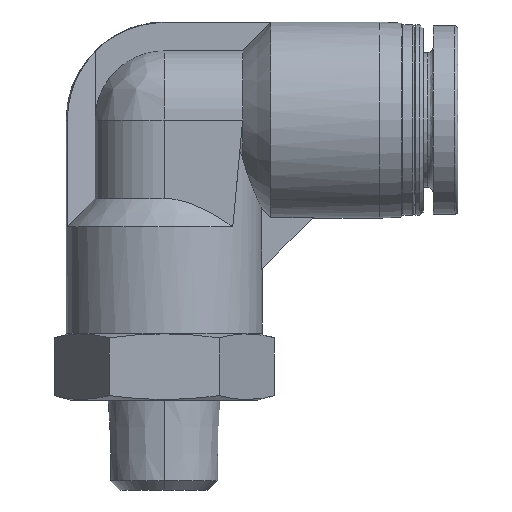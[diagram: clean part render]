
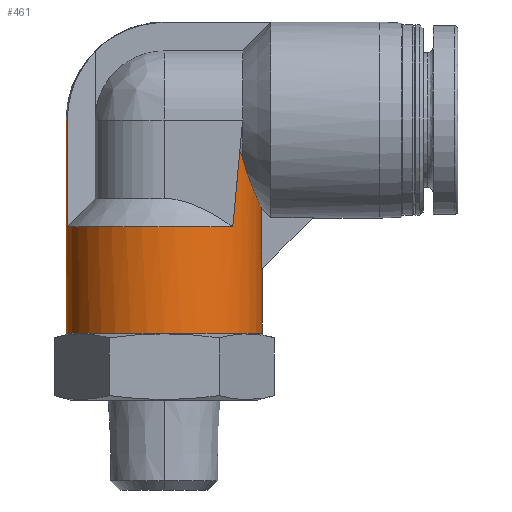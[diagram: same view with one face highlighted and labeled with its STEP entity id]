
A CAD part, front view. The second image highlights one B-rep face of the part: STEP entity #461.
In plain terms, the highlighted cylindrical face has radius 8.75 mm (diameter 17.5 mm), a partial arc.
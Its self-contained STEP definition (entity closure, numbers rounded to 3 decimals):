
#8 = DIRECTION ( 'NONE',  ( 0., 0., -1. ) ) ;
#12 = CARTESIAN_POINT ( 'NONE',  ( 6.74, -5.58, 30.184 ) ) ;
#39 = CARTESIAN_POINT ( 'NONE',  ( 8.63, -1.545, 25.253 ) ) ;
#71 = CARTESIAN_POINT ( 'NONE',  ( 0., 0., 14. ) ) ;
#118 = DIRECTION ( 'NONE',  ( 0., 0., 1. ) ) ;
#121 = CARTESIAN_POINT ( 'NONE',  ( 6.823, -5.479, 29.985 ) ) ;
#124 = EDGE_CURVE ( 'NONE', #783, #1930, #2068, .T. ) ;
#128 = EDGE_CURVE ( 'NONE', #1373, #1025, #2622, .T. ) ;
#177 = ORIENTED_EDGE ( 'NONE', *, *, #2468, .T. ) ;
#244 = CARTESIAN_POINT ( 'NONE',  ( 8.75, 0., 19.75 ) ) ;
#284 = AXIS2_PLACEMENT_3D ( 'NONE', #881, #8, #867 ) ;
#290 = CARTESIAN_POINT ( 'NONE',  ( 8.693, -1., 25.153 ) ) ;
#369 = VERTEX_POINT ( 'NONE', #732 ) ;
#428 = CARTESIAN_POINT ( 'NONE',  ( 7.602, -4.337, 27.69 ) ) ;
#457 = CARTESIAN_POINT ( 'NONE',  ( 8.095, -3.343, 26.44 ) ) ;
#458 = EDGE_LOOP ( 'NONE', ( #623, #2169, #177, #2532, #1084, #1153, #1214, #2212, #1901, #2386, #2434 ) ) ;
#461 = ADVANCED_FACE ( '39', ( #2511 ), #1176, .T. ) ;
#473 = CARTESIAN_POINT ( 'NONE',  ( 8.693, -1., 25.121 ) ) ;
#534 = CARTESIAN_POINT ( 'NONE',  ( 8.75, 0., 19.75 ) ) ;
#591 = CARTESIAN_POINT ( 'NONE',  ( 0., 0., 23.5 ) ) ;
#606 = CARTESIAN_POINT ( 'NONE',  ( -8.75, 0., 14. ) ) ;
#623 = ORIENTED_EDGE ( 'NONE', *, *, #1849, .F. ) ;
#653 = CARTESIAN_POINT ( 'NONE',  ( 7., -5.25, 29.609 ) ) ;
#687 = AXIS2_PLACEMENT_3D ( 'NONE', #71, #929, #2027 ) ;
#730 = LINE ( 'NONE', #290, #1557 ) ;
#732 = CARTESIAN_POINT ( 'NONE',  ( 8.693, -1., 25.121 ) ) ;
#778 = CARTESIAN_POINT ( 'NONE',  ( 7., -5.25, 29.609 ) ) ;
#783 = VERTEX_POINT ( 'NONE', #606 ) ;
#790 = EDGE_CURVE ( 'NONE', #1025, #1527, #2338, .T. ) ;
#802 = CARTESIAN_POINT ( 'NONE',  ( 0., 0., 14. ) ) ;
#858 = CARTESIAN_POINT ( 'NONE',  ( -8.75, 0., 14. ) ) ;
#867 = DIRECTION ( 'NONE',  ( 1., 0., 0. ) ) ;
#881 = CARTESIAN_POINT ( 'NONE',  ( 0., 0., 33. ) ) ;
#896 = CARTESIAN_POINT ( 'NONE',  ( 7.766, -4.035, 27.255 ) ) ;
#929 = DIRECTION ( 'NONE',  ( 0., 0., 1. ) ) ;
#950 = VERTEX_POINT ( 'NONE', #2715 ) ;
#988 = CARTESIAN_POINT ( 'NONE',  ( 6.74, -5.58, 30.184 ) ) ;
#1012 = EDGE_CURVE ( 'NONE', #1821, #2533, #1688, .T. ) ;
#1025 = VERTEX_POINT ( 'NONE', #1932 ) ;
#1035 = B_SPLINE_CURVE_WITH_KNOTS ( 'NONE', 3,
 ( #653, #1739, #2603, #2440, #428, #896, #2392, #457, #1782, #2665, #39, #473 ),
 .UNSPECIFIED., .F., .F.,
 ( 4, 2, 2, 2, 2, 4 ),
 ( 0., 0.002, 0.002, 0.003, 0.005, 0.007 ),
 .UNSPECIFIED. ) ;
#1074 = CARTESIAN_POINT ( 'NONE',  ( 6.546, -5.814, 28.083 ) ) ;
#1084 = ORIENTED_EDGE ( 'NONE', *, *, #1664, .F. ) ;
#1153 = ORIENTED_EDGE ( 'NONE', *, *, #1718, .F. ) ;
#1161 = CARTESIAN_POINT ( 'NONE',  ( 8.693, -1., 19.693 ) ) ;
#1176 = CYLINDRICAL_SURFACE ( 'NONE', #687, 8.75 ) ;
#1214 = ORIENTED_EDGE ( 'NONE', *, *, #1012, .T. ) ;
#1239 = CIRCLE ( 'NONE', #284, 8.75 ) ;
#1284 = EDGE_CURVE ( 'NONE', #2533, #1373, #1562, .T. ) ;
#1373 = VERTEX_POINT ( 'NONE', #1863 ) ;
#1465 = DIRECTION ( 'NONE',  ( 0., 0., -1. ) ) ;
#1490 = VERTEX_POINT ( 'NONE', #2822 ) ;
#1527 = VERTEX_POINT ( 'NONE', #2407 ) ;
#1538 = DIRECTION ( 'NONE',  ( 0., 0., -1. ) ) ;
#1554 = CARTESIAN_POINT ( 'NONE',  ( 8.75, 0., 14. ) ) ;
#1557 = VECTOR ( 'NONE', #1538, 1000. ) ;
#1562 =( BOUNDED_CURVE ( )  B_SPLINE_CURVE ( 3, ( #12, #1074, #1940, #2409 ),
 .UNSPECIFIED., .F., .T. ) 
 B_SPLINE_CURVE_WITH_KNOTS ( ( 4, 4 ),
 ( 0.691, 0.796 ),
 .UNSPECIFIED. ) 
 CURVE ( )  GEOMETRIC_REPRESENTATION_ITEM ( )  RATIONAL_B_SPLINE_CURVE ( ( 1., 0.999, 0.999, 1. ) ) 
 REPRESENTATION_ITEM ( '' )  );
#1630 = CARTESIAN_POINT ( 'NONE',  ( 7., -5.25, 29.609 ) ) ;
#1664 = EDGE_CURVE ( 'NONE', #369, #950, #730, .T. ) ;
#1673 = DIRECTION ( 'NONE',  ( 0., 0., 1. ) ) ;
#1682 = EDGE_CURVE ( 'NONE', #950, #2517, #2051, .T. ) ;
#1685 = DIRECTION ( 'NONE',  ( 1., 0., 0. ) ) ;
#1688 = B_SPLINE_CURVE_WITH_KNOTS ( 'NONE', 3,
 ( #1630, #2510, #121, #988 ),
 .UNSPECIFIED., .F., .F.,
 ( 4, 4 ),
 ( 0., 0.001 ),
 .UNSPECIFIED. ) ;
#1718 = EDGE_CURVE ( 'NONE', #1821, #369, #1035, .T. ) ;
#1739 = CARTESIAN_POINT ( 'NONE',  ( 7.132, -5.074, 29.094 ) ) ;
#1770 = EDGE_CURVE ( 'NONE', #1527, #1490, #1239, .T. ) ;
#1782 = CARTESIAN_POINT ( 'NONE',  ( 8.252, -2.949, 26.082 ) ) ;
#1784 = CARTESIAN_POINT ( 'NONE',  ( 8.731, -0.668, 19.731 ) ) ;
#1821 = VERTEX_POINT ( 'NONE', #778 ) ;
#1849 = EDGE_CURVE ( 'NONE', #783, #1490, #1958, .T. ) ;
#1863 = CARTESIAN_POINT ( 'NONE',  ( 6.124, -6.25, 23.5 ) ) ;
#1901 = ORIENTED_EDGE ( 'NONE', *, *, #128, .T. ) ;
#1903 = CARTESIAN_POINT ( 'NONE',  ( -8.629, -1.45, 14. ) ) ;
#1930 = VERTEX_POINT ( 'NONE', #1554 ) ;
#1932 = CARTESIAN_POINT ( 'NONE',  ( -8.629, -1.45, 23.5 ) ) ;
#1940 = CARTESIAN_POINT ( 'NONE',  ( 6.341, -6.037, 25.853 ) ) ;
#1958 = LINE ( 'NONE', #858, #2659 ) ;
#2027 = DIRECTION ( 'NONE',  ( 1., 0., 0. ) ) ;
#2051 =( BOUNDED_CURVE ( )  B_SPLINE_CURVE ( 3, ( #1161, #1784, #2683, #244 ),
 .UNSPECIFIED., .F., .F. ) 
 B_SPLINE_CURVE_WITH_KNOTS ( ( 4, 4 ),
 ( 6.169, 6.283 ),
 .UNSPECIFIED. ) 
 CURVE ( )  GEOMETRIC_REPRESENTATION_ITEM ( )  RATIONAL_B_SPLINE_CURVE ( ( 1., 0.999, 0.999, 1. ) ) 
 REPRESENTATION_ITEM ( '' )  );
#2068 = CIRCLE ( 'NONE', #2309, 8.75 ) ;
#2070 = CARTESIAN_POINT ( 'NONE',  ( 8.75, 0., 14. ) ) ;
#2079 = CARTESIAN_POINT ( 'NONE',  ( 6.74, -5.58, 30.184 ) ) ;
#2169 = ORIENTED_EDGE ( 'NONE', *, *, #124, .T. ) ;
#2212 = ORIENTED_EDGE ( 'NONE', *, *, #1284, .T. ) ;
#2300 = LINE ( 'NONE', #2070, #2600 ) ;
#2309 = AXIS2_PLACEMENT_3D ( 'NONE', #802, #1673, #1685 ) ;
#2338 = LINE ( 'NONE', #1903, #2722 ) ;
#2372 = DIRECTION ( 'NONE',  ( 1., 0., 0. ) ) ;
#2386 = ORIENTED_EDGE ( 'NONE', *, *, #790, .T. ) ;
#2392 = CARTESIAN_POINT ( 'NONE',  ( 7.85, -3.871, 27.043 ) ) ;
#2407 = CARTESIAN_POINT ( 'NONE',  ( -8.629, -1.45, 33. ) ) ;
#2409 = CARTESIAN_POINT ( 'NONE',  ( 6.124, -6.25, 23.5 ) ) ;
#2434 = ORIENTED_EDGE ( 'NONE', *, *, #1770, .T. ) ;
#2440 = CARTESIAN_POINT ( 'NONE',  ( 7.52, -4.476, 27.914 ) ) ;
#2468 = EDGE_CURVE ( 'NONE', #1930, #2517, #2300, .T. ) ;
#2510 = CARTESIAN_POINT ( 'NONE',  ( 6.91, -5.369, 29.794 ) ) ;
#2511 = FACE_OUTER_BOUND ( 'NONE', #458, .T. ) ;
#2517 = VERTEX_POINT ( 'NONE', #534 ) ;
#2532 = ORIENTED_EDGE ( 'NONE', *, *, #1682, .F. ) ;
#2533 = VERTEX_POINT ( 'NONE', #2079 ) ;
#2576 = AXIS2_PLACEMENT_3D ( 'NONE', #591, #1465, #2372 ) ;
#2597 = DIRECTION ( 'NONE',  ( 0., 0., 1. ) ) ;
#2600 = VECTOR ( 'NONE', #118, 1000. ) ;
#2603 = CARTESIAN_POINT ( 'NONE',  ( 7.282, -4.86, 28.607 ) ) ;
#2622 = CIRCLE ( 'NONE', #2576, 8.75 ) ;
#2627 = DIRECTION ( 'NONE',  ( 0., 0., 1. ) ) ;
#2659 = VECTOR ( 'NONE', #2627, 1000. ) ;
#2665 = CARTESIAN_POINT ( 'NONE',  ( 8.522, -2.039, 25.481 ) ) ;
#2683 = CARTESIAN_POINT ( 'NONE',  ( 8.75, -0.334, 19.75 ) ) ;
#2715 = CARTESIAN_POINT ( 'NONE',  ( 8.693, -1., 19.693 ) ) ;
#2722 = VECTOR ( 'NONE', #2597, 1000. ) ;
#2822 = CARTESIAN_POINT ( 'NONE',  ( -8.75, 0., 33. ) ) ;
